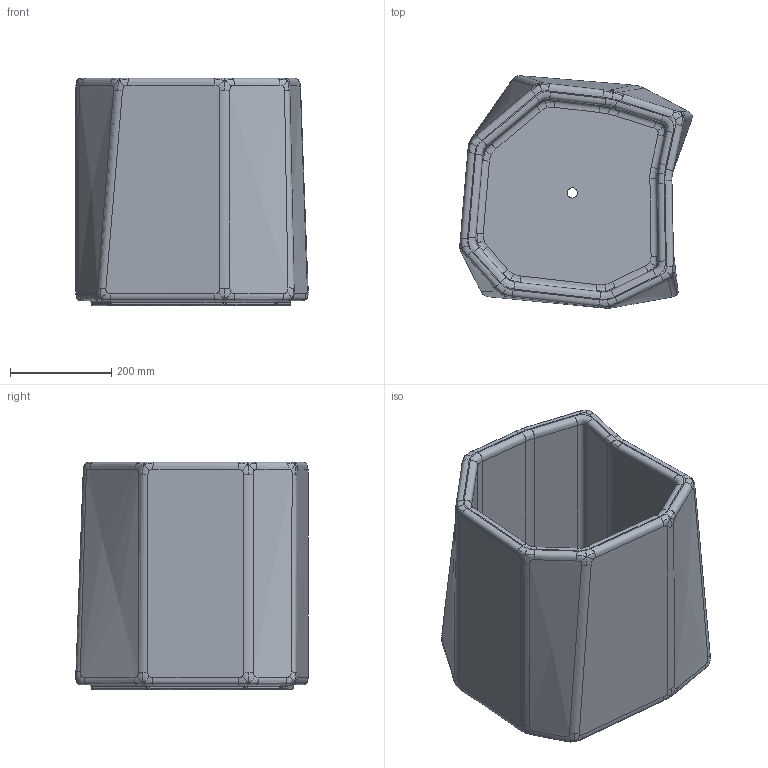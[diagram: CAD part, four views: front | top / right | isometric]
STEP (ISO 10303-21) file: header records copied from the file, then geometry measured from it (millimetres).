
FILE_DESCRIPTION(/* description */ (''),/* implementation_level */ '2;1');
FILE_NAME(/* name */ 'Staffa Planter_H45_3D',/* time_stamp */ '2026-02-02T14:50:24+01:00',/* author */ (''),/* organization */ (''),/* preprocessor_version */ 'ST-DEVELOPER v19.2',/* originating_system */ 'Rhino 8.27',/* authorisation */ '');
FILE_SCHEMA (('CONFIG_CONTROL_DESIGN'));
Length unit declared in the file: millimetre
Products named in the file (1): Document
Bounding box: 459.34 x 459.56 x 450.01 mm (x, y, z)
Volume: 23942789.6 mm3; surface area: 1543324.2 mm2
Topology: 1 solids, 1 shells, 445 faces, 1136 edges, 695 vertices
Faces by surface type: bspline 403, plane 36, cylinder 6
Entity records: 45574 total; most frequent: CARTESIAN_POINT 38368, ORIENTED_EDGE 2272, EDGE_CURVE 1136, B_SPLINE_CURVE_WITH_KNOTS 1122, VERTEX_POINT 695, EDGE_LOOP 449, ADVANCED_FACE 445, FACE_OUTER_BOUND 445
